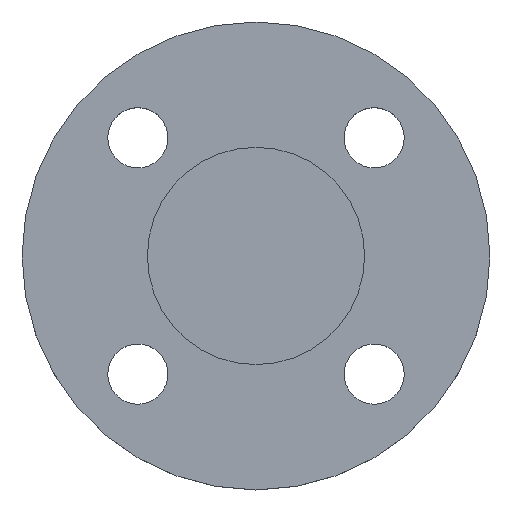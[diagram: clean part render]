
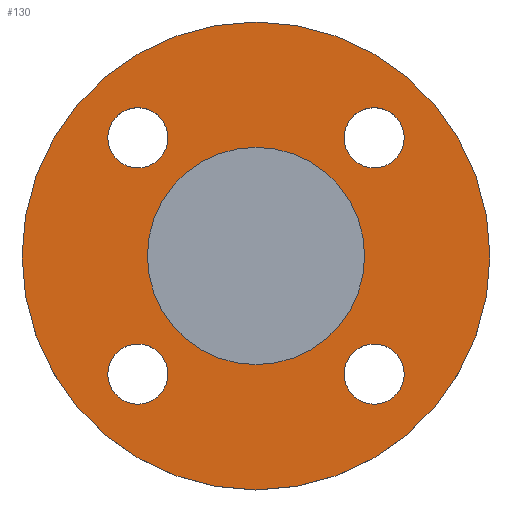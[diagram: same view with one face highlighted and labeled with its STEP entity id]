
A CAD part, top view. The second image highlights one B-rep face of the part: STEP entity #130.
In plain terms, the highlighted planar face has unit normal (0, 0, 1).
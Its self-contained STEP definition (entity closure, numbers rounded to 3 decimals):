
#1 = AXIS2_PLACEMENT_3D ( 'NONE', #250, #413, #57 ) ;
#3 = DIRECTION ( 'NONE',  ( 0., 0., -1. ) ) ;
#4 = ORIENTED_EDGE ( 'NONE', *, *, #401, .F. ) ;
#5 = FACE_OUTER_BOUND ( 'NONE', #162, .T. ) ;
#8 = VERTEX_POINT ( 'NONE', #227 ) ;
#12 = ORIENTED_EDGE ( 'NONE', *, *, #147, .T. ) ;
#20 = VERTEX_POINT ( 'NONE', #346 ) ;
#23 = DIRECTION ( 'NONE',  ( 0., 0., -1. ) ) ;
#24 = CIRCLE ( 'NONE', #236, 9. ) ;
#42 = ORIENTED_EDGE ( 'NONE', *, *, #180, .T. ) ;
#43 = FACE_BOUND ( 'NONE', #427, .T. ) ;
#55 = CIRCLE ( 'NONE', #148, 9. ) ;
#57 = DIRECTION ( 'NONE',  ( 1., 0., 0. ) ) ;
#70 = VERTEX_POINT ( 'NONE', #351 ) ;
#79 = DIRECTION ( 'NONE',  ( 1., 0., 0. ) ) ;
#82 = DIRECTION ( 'NONE',  ( 0., 0., -1. ) ) ;
#83 = ORIENTED_EDGE ( 'NONE', *, *, #342, .T. ) ;
#85 = CARTESIAN_POINT ( 'NONE',  ( 32.5, 0., -4.5 ) ) ;
#89 = DIRECTION ( 'NONE',  ( 0., 0., -1. ) ) ;
#100 = CARTESIAN_POINT ( 'NONE',  ( 0., 0., -4.5 ) ) ;
#101 = CIRCLE ( 'NONE', #389, 70. ) ;
#105 = EDGE_CURVE ( 'NONE', #320, #204, #386, .T. ) ;
#111 = EDGE_LOOP ( 'NONE', ( #160, #354 ) ) ;
#114 = AXIS2_PLACEMENT_3D ( 'NONE', #270, #434, #79 ) ;
#115 = EDGE_LOOP ( 'NONE', ( #12, #368 ) ) ;
#117 = EDGE_CURVE ( 'NONE', #122, #476, #55, .T. ) ;
#122 = VERTEX_POINT ( 'NONE', #436 ) ;
#123 = DIRECTION ( 'NONE',  ( 1., 0., 0. ) ) ;
#124 = CARTESIAN_POINT ( 'NONE',  ( 0., 0., -4.5 ) ) ;
#128 = DIRECTION ( 'NONE',  ( 0., 0., -1. ) ) ;
#130 = ADVANCED_FACE ( 'NONE', ( #235, #399, #43, #198, #360, #5 ), #163, .T. ) ;
#139 = CARTESIAN_POINT ( 'NONE',  ( 26.355, 35.355, -4.5 ) ) ;
#147 = EDGE_CURVE ( 'NONE', #204, #320, #226, .T. ) ;
#148 = AXIS2_PLACEMENT_3D ( 'NONE', #357, #3, #161 ) ;
#159 = CIRCLE ( 'NONE', #385, 32.5 ) ;
#160 = ORIENTED_EDGE ( 'NONE', *, *, #284, .T. ) ;
#161 = DIRECTION ( 'NONE',  ( 1., 0., 0. ) ) ;
#162 = EDGE_LOOP ( 'NONE', ( #189, #4 ) ) ;
#163 = PLANE ( 'NONE',  #299 ) ;
#164 = CARTESIAN_POINT ( 'NONE',  ( -35.355, -35.355, -4.5 ) ) ;
#173 = ORIENTED_EDGE ( 'NONE', *, *, #510, .T. ) ;
#174 = CARTESIAN_POINT ( 'NONE',  ( 0., 0., -4.5 ) ) ;
#177 = DIRECTION ( 'NONE',  ( 1., 0., 0. ) ) ;
#180 = EDGE_CURVE ( 'NONE', #476, #122, #24, .T. ) ;
#189 = ORIENTED_EDGE ( 'NONE', *, *, #493, .F. ) ;
#195 = AXIS2_PLACEMENT_3D ( 'NONE', #445, #89, #246 ) ;
#197 = ORIENTED_EDGE ( 'NONE', *, *, #117, .T. ) ;
#198 = FACE_BOUND ( 'NONE', #111, .T. ) ;
#200 = VERTEX_POINT ( 'NONE', #252 ) ;
#204 = VERTEX_POINT ( 'NONE', #416 ) ;
#205 = CARTESIAN_POINT ( 'NONE',  ( -35.355, 35.355, -4.5 ) ) ;
#208 = AXIS2_PLACEMENT_3D ( 'NONE', #164, #318, #482 ) ;
#226 = CIRCLE ( 'NONE', #335, 9. ) ;
#227 = CARTESIAN_POINT ( 'NONE',  ( -44.355, -35.355, -4.5 ) ) ;
#235 = FACE_BOUND ( 'NONE', #115, .T. ) ;
#236 = AXIS2_PLACEMENT_3D ( 'NONE', #205, #289, #451 ) ;
#237 = DIRECTION ( 'NONE',  ( -1., 0., 0. ) ) ;
#246 = DIRECTION ( 'NONE',  ( 1., 0., 0. ) ) ;
#249 = CIRCLE ( 'NONE', #470, 9. ) ;
#250 = CARTESIAN_POINT ( 'NONE',  ( 35.355, 35.355, -4.5 ) ) ;
#252 = CARTESIAN_POINT ( 'NONE',  ( -70., 0., -4.5 ) ) ;
#253 = CARTESIAN_POINT ( 'NONE',  ( 26.355, -35.355, -4.5 ) ) ;
#255 = EDGE_CURVE ( 'NONE', #305, #20, #496, .T. ) ;
#256 = DIRECTION ( 'NONE',  ( 0., 0., -1. ) ) ;
#267 = AXIS2_PLACEMENT_3D ( 'NONE', #124, #278, #441 ) ;
#270 = CARTESIAN_POINT ( 'NONE',  ( 35.355, -35.355, -4.5 ) ) ;
#278 = DIRECTION ( 'NONE',  ( 0., 0., -1. ) ) ;
#280 = ORIENTED_EDGE ( 'NONE', *, *, #508, .T. ) ;
#281 = DIRECTION ( 'NONE',  ( 1., 0., 0. ) ) ;
#284 = EDGE_CURVE ( 'NONE', #20, #305, #291, .T. ) ;
#289 = DIRECTION ( 'NONE',  ( 0., 0., -1. ) ) ;
#291 = CIRCLE ( 'NONE', #1, 9. ) ;
#299 = AXIS2_PLACEMENT_3D ( 'NONE', #317, #481, #123 ) ;
#303 = EDGE_CURVE ( 'NONE', #511, #425, #159, .T. ) ;
#305 = VERTEX_POINT ( 'NONE', #139 ) ;
#317 = CARTESIAN_POINT ( 'NONE',  ( 32.5, 0., -4.5 ) ) ;
#318 = DIRECTION ( 'NONE',  ( 0., 0., -1. ) ) ;
#320 = VERTEX_POINT ( 'NONE', #253 ) ;
#330 = DIRECTION ( 'NONE',  ( 0., 0., -1. ) ) ;
#335 = AXIS2_PLACEMENT_3D ( 'NONE', #487, #128, #281 ) ;
#337 = CARTESIAN_POINT ( 'NONE',  ( -32.5, 0., -4.5 ) ) ;
#342 = EDGE_CURVE ( 'NONE', #8, #390, #249, .T. ) ;
#346 = CARTESIAN_POINT ( 'NONE',  ( 44.355, 35.355, -4.5 ) ) ;
#351 = CARTESIAN_POINT ( 'NONE',  ( 70., 0., -4.5 ) ) ;
#354 = ORIENTED_EDGE ( 'NONE', *, *, #255, .T. ) ;
#357 = CARTESIAN_POINT ( 'NONE',  ( -35.355, 35.355, -4.5 ) ) ;
#360 = FACE_BOUND ( 'NONE', #406, .T. ) ;
#368 = ORIENTED_EDGE ( 'NONE', *, *, #105, .T. ) ;
#379 = CARTESIAN_POINT ( 'NONE',  ( -35.355, -35.355, -4.5 ) ) ;
#385 = AXIS2_PLACEMENT_3D ( 'NONE', #174, #330, #495 ) ;
#386 = CIRCLE ( 'NONE', #114, 9. ) ;
#389 = AXIS2_PLACEMENT_3D ( 'NONE', #437, #82, #237 ) ;
#390 = VERTEX_POINT ( 'NONE', #457 ) ;
#399 = FACE_BOUND ( 'NONE', #431, .T. ) ;
#401 = EDGE_CURVE ( 'NONE', #200, #70, #503, .T. ) ;
#406 = EDGE_LOOP ( 'NONE', ( #173, #466 ) ) ;
#413 = DIRECTION ( 'NONE',  ( 0., 0., -1. ) ) ;
#416 = CARTESIAN_POINT ( 'NONE',  ( 44.355, -35.355, -4.5 ) ) ;
#420 = DIRECTION ( 'NONE',  ( -1., 0., 0. ) ) ;
#425 = VERTEX_POINT ( 'NONE', #337 ) ;
#427 = EDGE_LOOP ( 'NONE', ( #197, #42 ) ) ;
#429 = AXIS2_PLACEMENT_3D ( 'NONE', #100, #256, #420 ) ;
#431 = EDGE_LOOP ( 'NONE', ( #280, #83 ) ) ;
#434 = DIRECTION ( 'NONE',  ( 0., 0., -1. ) ) ;
#436 = CARTESIAN_POINT ( 'NONE',  ( -26.355, 35.355, -4.5 ) ) ;
#437 = CARTESIAN_POINT ( 'NONE',  ( 0., 0., -4.5 ) ) ;
#441 = DIRECTION ( 'NONE',  ( -1., 0., 0. ) ) ;
#445 = CARTESIAN_POINT ( 'NONE',  ( 35.355, 35.355, -4.5 ) ) ;
#451 = DIRECTION ( 'NONE',  ( 1., 0., 0. ) ) ;
#457 = CARTESIAN_POINT ( 'NONE',  ( -26.355, -35.355, -4.5 ) ) ;
#459 = CIRCLE ( 'NONE', #208, 9. ) ;
#466 = ORIENTED_EDGE ( 'NONE', *, *, #303, .T. ) ;
#470 = AXIS2_PLACEMENT_3D ( 'NONE', #379, #23, #177 ) ;
#476 = VERTEX_POINT ( 'NONE', #507 ) ;
#481 = DIRECTION ( 'NONE',  ( 0., 0., 1. ) ) ;
#482 = DIRECTION ( 'NONE',  ( 1., 0., 0. ) ) ;
#487 = CARTESIAN_POINT ( 'NONE',  ( 35.355, -35.355, -4.5 ) ) ;
#493 = EDGE_CURVE ( 'NONE', #70, #200, #101, .T. ) ;
#495 = DIRECTION ( 'NONE',  ( -1., 0., 0. ) ) ;
#496 = CIRCLE ( 'NONE', #195, 9. ) ;
#503 = CIRCLE ( 'NONE', #429, 70. ) ;
#504 = CIRCLE ( 'NONE', #267, 32.5 ) ;
#507 = CARTESIAN_POINT ( 'NONE',  ( -44.355, 35.355, -4.5 ) ) ;
#508 = EDGE_CURVE ( 'NONE', #390, #8, #459, .T. ) ;
#510 = EDGE_CURVE ( 'NONE', #425, #511, #504, .T. ) ;
#511 = VERTEX_POINT ( 'NONE', #85 ) ;
